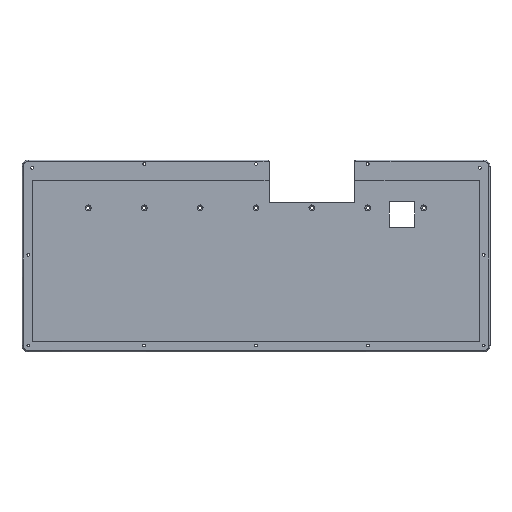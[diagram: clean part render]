
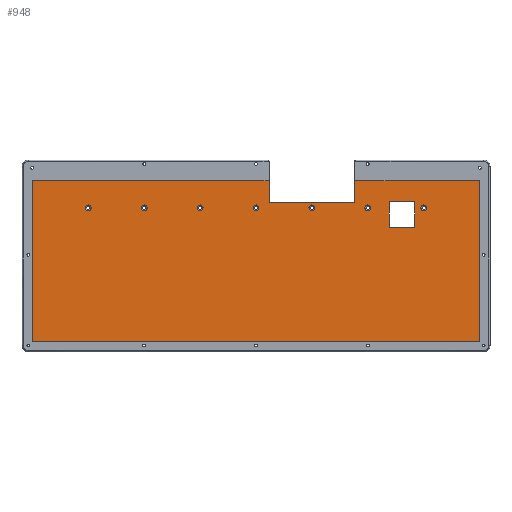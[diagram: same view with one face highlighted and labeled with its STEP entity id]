
A CAD part, top view. The second image highlights one B-rep face of the part: STEP entity #948.
In plain terms, the highlighted planar face has unit normal (0, 0, 1).
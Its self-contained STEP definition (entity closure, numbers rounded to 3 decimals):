
#685=CARTESIAN_POINT('',(298.,-15.5,3.));
#686=VERTEX_POINT('',#685);
#687=CARTESIAN_POINT('',(298.,-35.5,3.));
#688=VERTEX_POINT('',#687);
#689=CARTESIAN_POINT('',(298.,-15.5,3.));
#690=DIRECTION('',(0.,-1.,0.));
#691=VECTOR('',#690,20.);
#692=LINE('',#689,#691);
#693=EDGE_CURVE('',#686,#688,#692,.T.);
#716=CARTESIAN_POINT('',(278.,-15.5,3.));
#717=VERTEX_POINT('',#716);
#718=CARTESIAN_POINT('',(278.,-15.5,3.));
#719=DIRECTION('',(1.,0.,0.));
#720=VECTOR('',#719,20.);
#721=LINE('',#718,#720);
#722=EDGE_CURVE('',#717,#686,#721,.T.);
#740=CARTESIAN_POINT('',(278.,-35.5,3.));
#741=VERTEX_POINT('',#740);
#742=CARTESIAN_POINT('',(278.,-35.5,3.));
#743=DIRECTION('',(-0.,1.,0.));
#744=VECTOR('',#743,20.);
#745=LINE('',#742,#744);
#746=EDGE_CURVE('',#741,#717,#745,.T.);
#764=CARTESIAN_POINT('',(298.,-35.5,3.));
#765=DIRECTION('',(-1.,0.,0.));
#766=VECTOR('',#765,20.);
#767=LINE('',#764,#766);
#768=EDGE_CURVE('',#688,#741,#767,.T.);
#776=CARTESIAN_POINT('',(0.,0.,3.));
#777=DIRECTION('',(0.,0.,1.));
#778=DIRECTION('',(1.,0.,0.));
#779=AXIS2_PLACEMENT_3D('',#776,#777,#778);
#780=PLANE('',#779);
#781=CARTESIAN_POINT('',(185.,-16.,3.));
#782=VERTEX_POINT('',#781);
#783=CARTESIAN_POINT('',(250.,-16.,3.));
#784=VERTEX_POINT('',#783);
#785=CARTESIAN_POINT('',(185.,-16.,3.));
#786=DIRECTION('',(1.,0.,-0.));
#787=VECTOR('',#786,65.);
#788=LINE('',#785,#787);
#789=EDGE_CURVE('',#782,#784,#788,.T.);
#790=ORIENTED_EDGE('',*,*,#789,.F.);
#791=CARTESIAN_POINT('',(184.,-15.,3.));
#792=VERTEX_POINT('',#791);
#793=CARTESIAN_POINT('',(185.,-15.,3.));
#794=DIRECTION('',(-0.,-0.,-1.));
#795=DIRECTION('',(1.,0.,-0.));
#796=AXIS2_PLACEMENT_3D('',#793,#794,#795);
#797=CIRCLE('',#796,1.);
#798=EDGE_CURVE('',#782,#792,#797,.T.);
#799=ORIENTED_EDGE('',*,*,#798,.T.);
#800=CARTESIAN_POINT('',(184.,1.,3.));
#801=VERTEX_POINT('',#800);
#802=CARTESIAN_POINT('',(184.,1.,3.));
#803=DIRECTION('',(0.,-1.,0.));
#804=VECTOR('',#803,16.);
#805=LINE('',#802,#804);
#806=EDGE_CURVE('',#801,#792,#805,.T.);
#807=ORIENTED_EDGE('',*,*,#806,.F.);
#808=CARTESIAN_POINT('',(-1.,1.,3.));
#809=VERTEX_POINT('',#808);
#810=CARTESIAN_POINT('',(-1.,1.,3.));
#811=DIRECTION('',(1.,0.,-0.));
#812=VECTOR('',#811,185.);
#813=LINE('',#810,#812);
#814=EDGE_CURVE('',#809,#801,#813,.T.);
#815=ORIENTED_EDGE('',*,*,#814,.F.);
#816=CARTESIAN_POINT('',(-1.,-124.825,3.));
#817=VERTEX_POINT('',#816);
#818=CARTESIAN_POINT('',(-1.,-124.825,3.));
#819=DIRECTION('',(0.,1.,0.));
#820=VECTOR('',#819,125.825);
#821=LINE('',#818,#820);
#822=EDGE_CURVE('',#817,#809,#821,.T.);
#823=ORIENTED_EDGE('',*,*,#822,.F.);
#824=CARTESIAN_POINT('',(348.663,-124.825,3.));
#825=VERTEX_POINT('',#824);
#826=CARTESIAN_POINT('',(-1.,-124.825,3.));
#827=DIRECTION('',(1.,0.,-0.));
#828=VECTOR('',#827,349.663);
#829=LINE('',#826,#828);
#830=EDGE_CURVE('',#817,#825,#829,.T.);
#831=ORIENTED_EDGE('',*,*,#830,.T.);
#832=CARTESIAN_POINT('',(348.663,1.,3.));
#833=VERTEX_POINT('',#832);
#834=CARTESIAN_POINT('',(348.663,-124.825,3.));
#835=DIRECTION('',(0.,1.,0.));
#836=VECTOR('',#835,125.825);
#837=LINE('',#834,#836);
#838=EDGE_CURVE('',#825,#833,#837,.T.);
#839=ORIENTED_EDGE('',*,*,#838,.T.);
#840=CARTESIAN_POINT('',(251.,1.,3.));
#841=VERTEX_POINT('',#840);
#842=CARTESIAN_POINT('',(251.,1.,3.));
#843=DIRECTION('',(1.,0.,-0.));
#844=VECTOR('',#843,97.663);
#845=LINE('',#842,#844);
#846=EDGE_CURVE('',#841,#833,#845,.T.);
#847=ORIENTED_EDGE('',*,*,#846,.F.);
#848=CARTESIAN_POINT('',(251.,-15.,3.));
#849=VERTEX_POINT('',#848);
#850=CARTESIAN_POINT('',(251.,1.,3.));
#851=DIRECTION('',(0.,-1.,0.));
#852=VECTOR('',#851,16.);
#853=LINE('',#850,#852);
#854=EDGE_CURVE('',#841,#849,#853,.T.);
#855=ORIENTED_EDGE('',*,*,#854,.T.);
#856=CARTESIAN_POINT('',(250.,-15.,3.));
#857=DIRECTION('',(-0.,-0.,-1.));
#858=DIRECTION('',(1.,0.,-0.));
#859=AXIS2_PLACEMENT_3D('',#856,#857,#858);
#860=CIRCLE('',#859,1.);
#861=EDGE_CURVE('',#849,#784,#860,.T.);
#862=ORIENTED_EDGE('',*,*,#861,.T.);
#863=EDGE_LOOP('',(#790,#799,#807,#815,#823,#831,#839,#847,#855,#862));
#864=FACE_BOUND('',#863,.T.);
#865=CARTESIAN_POINT('',(176.156,-20.375,3.));
#866=VERTEX_POINT('',#865);
#867=CARTESIAN_POINT('',(173.831,-20.375,3.));
#868=DIRECTION('',(-0.,-0.,-1.));
#869=DIRECTION('',(1.,0.,-0.));
#870=AXIS2_PLACEMENT_3D('',#867,#868,#869);
#871=CIRCLE('',#870,2.325);
#872=EDGE_CURVE('',#866,#866,#871,.T.);
#873=ORIENTED_EDGE('',*,*,#872,.T.);
#874=EDGE_LOOP('',(#873));
#875=FACE_BOUND('',#874,.T.);
#876=CARTESIAN_POINT('',(307.28,-20.375,3.));
#877=VERTEX_POINT('',#876);
#878=CARTESIAN_POINT('',(304.955,-20.375,3.));
#879=DIRECTION('',(-0.,-0.,-1.));
#880=DIRECTION('',(1.,0.,-0.));
#881=AXIS2_PLACEMENT_3D('',#878,#879,#880);
#882=CIRCLE('',#881,2.325);
#883=EDGE_CURVE('',#877,#877,#882,.T.);
#884=ORIENTED_EDGE('',*,*,#883,.T.);
#885=EDGE_LOOP('',(#884));
#886=FACE_BOUND('',#885,.T.);
#887=CARTESIAN_POINT('',(132.448,-20.375,3.));
#888=VERTEX_POINT('',#887);
#889=CARTESIAN_POINT('',(130.123,-20.375,3.));
#890=DIRECTION('',(-0.,-0.,-1.));
#891=DIRECTION('',(1.,0.,-0.));
#892=AXIS2_PLACEMENT_3D('',#889,#890,#891);
#893=CIRCLE('',#892,2.325);
#894=EDGE_CURVE('',#888,#888,#893,.T.);
#895=ORIENTED_EDGE('',*,*,#894,.T.);
#896=EDGE_LOOP('',(#895));
#897=FACE_BOUND('',#896,.T.);
#898=CARTESIAN_POINT('',(88.741,-20.375,3.));
#899=VERTEX_POINT('',#898);
#900=CARTESIAN_POINT('',(86.416,-20.375,3.));
#901=DIRECTION('',(-0.,-0.,-1.));
#902=DIRECTION('',(1.,0.,-0.));
#903=AXIS2_PLACEMENT_3D('',#900,#901,#902);
#904=CIRCLE('',#903,2.325);
#905=EDGE_CURVE('',#899,#899,#904,.T.);
#906=ORIENTED_EDGE('',*,*,#905,.T.);
#907=EDGE_LOOP('',(#906));
#908=FACE_BOUND('',#907,.T.);
#909=CARTESIAN_POINT('',(263.572,-20.375,3.));
#910=VERTEX_POINT('',#909);
#911=CARTESIAN_POINT('',(261.247,-20.375,3.));
#912=DIRECTION('',(-0.,-0.,-1.));
#913=DIRECTION('',(1.,0.,-0.));
#914=AXIS2_PLACEMENT_3D('',#911,#912,#913);
#915=CIRCLE('',#914,2.325);
#916=EDGE_CURVE('',#910,#910,#915,.T.);
#917=ORIENTED_EDGE('',*,*,#916,.T.);
#918=EDGE_LOOP('',(#917));
#919=FACE_BOUND('',#918,.T.);
#920=CARTESIAN_POINT('',(45.033,-20.375,3.));
#921=VERTEX_POINT('',#920);
#922=CARTESIAN_POINT('',(42.708,-20.375,3.));
#923=DIRECTION('',(-0.,-0.,-1.));
#924=DIRECTION('',(1.,0.,-0.));
#925=AXIS2_PLACEMENT_3D('',#922,#923,#924);
#926=CIRCLE('',#925,2.325);
#927=EDGE_CURVE('',#921,#921,#926,.T.);
#928=ORIENTED_EDGE('',*,*,#927,.T.);
#929=EDGE_LOOP('',(#928));
#930=FACE_BOUND('',#929,.T.);
#931=CARTESIAN_POINT('',(219.864,-20.375,3.));
#932=VERTEX_POINT('',#931);
#933=CARTESIAN_POINT('',(217.539,-20.375,3.));
#934=DIRECTION('',(-0.,-0.,-1.));
#935=DIRECTION('',(1.,0.,-0.));
#936=AXIS2_PLACEMENT_3D('',#933,#934,#935);
#937=CIRCLE('',#936,2.325);
#938=EDGE_CURVE('',#932,#932,#937,.T.);
#939=ORIENTED_EDGE('',*,*,#938,.T.);
#940=EDGE_LOOP('',(#939));
#941=FACE_BOUND('',#940,.T.);
#942=ORIENTED_EDGE('',*,*,#768,.T.);
#943=ORIENTED_EDGE('',*,*,#746,.T.);
#944=ORIENTED_EDGE('',*,*,#722,.T.);
#945=ORIENTED_EDGE('',*,*,#693,.T.);
#946=EDGE_LOOP('',(#942,#943,#944,#945));
#947=FACE_BOUND('',#946,.T.);
#948=ADVANCED_FACE('',(#864,#875,#886,#897,#908,#919,#930,#941,#947),#780,.T.);
